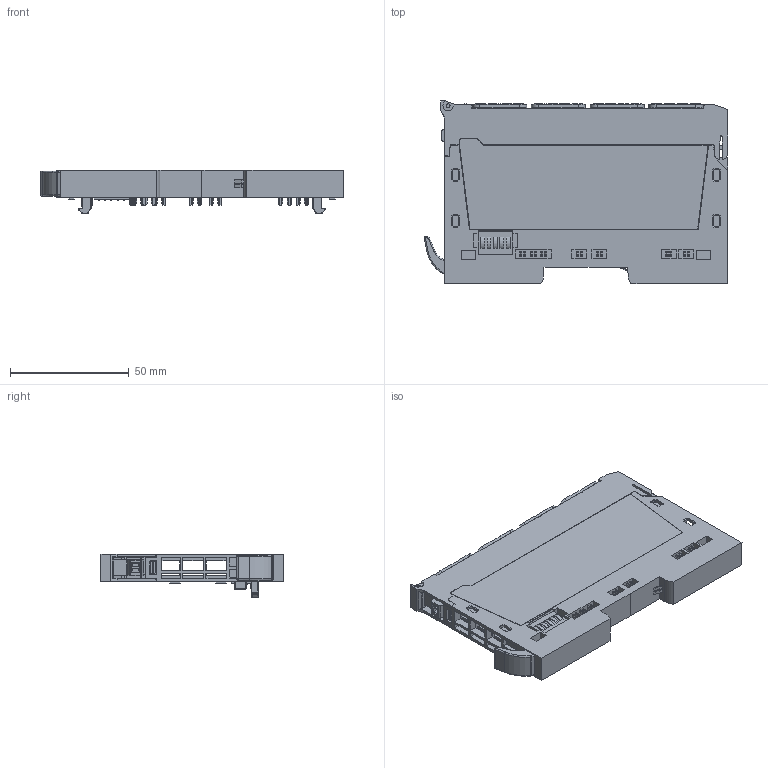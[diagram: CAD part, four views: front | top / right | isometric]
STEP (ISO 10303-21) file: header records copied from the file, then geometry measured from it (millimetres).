
FILE_DESCRIPTION(('CATIA V5R24 STEP','CAx-IF Rec.Pracs.--- Model Styling and Organization---1.2---2011-12-15'),'2;1');
FILE_NAME('\\srvde068\desktop\W007374\brandlable laser layout\Mitsubishi\SP_UR20-8DO-N.stp','2018-05-17T07:32:57+00:00',('Weidmueller Interface'),('WI'),'CATIA Version 5-6 Release 2014 SP4 HF52','CATIA V5 STEP AP214','none');
FILE_SCHEMA(('AUTOMOTIVE_DESIGN { 1 0 10303 214 1 1 1 1 }'));
Products named in the file (8): SP_UR20-8DO-N; SP_UR20_HO_BM; SP_UR20_EM_SP; SP_UR20_HO_EM; 54154_UR20_PCB_PG1-5; SP_UR20_PK; SP_UR20_CNFR; SP_UR20_PG1-5
Assembly tree (10 placements, depth 3):
  SP_UR20-8DO-N
    SP_UR20_HO_BM
    SP_UR20_EM_SP
      SP_UR20_HO_EM
      54154_UR20_PCB_PG1-5
    SP_UR20_PK
      SP_UR20_CNFR
      SP_UR20_PG1-5  x4
Bounding box: 127.88 x 77.45 x 18.5 mm (x, y, z)
Volume: 65925.7 mm3; surface area: 70015 mm2
Topology: 8 solids, 8 shells, 3550 faces, 9999 edges, 6599 vertices
Faces by surface type: plane 2966, cylinder 538, sphere 20, torus 18, bspline 8
Entity records: 82940 total; most frequent: CARTESIAN_POINT 16178, ORIENTED_EDGE 14834, DIRECTION 10480, EDGE_CURVE 7417, VECTOR 6466, LINE 6466, VERTEX_POINT 4889, EDGE_LOOP 2892
